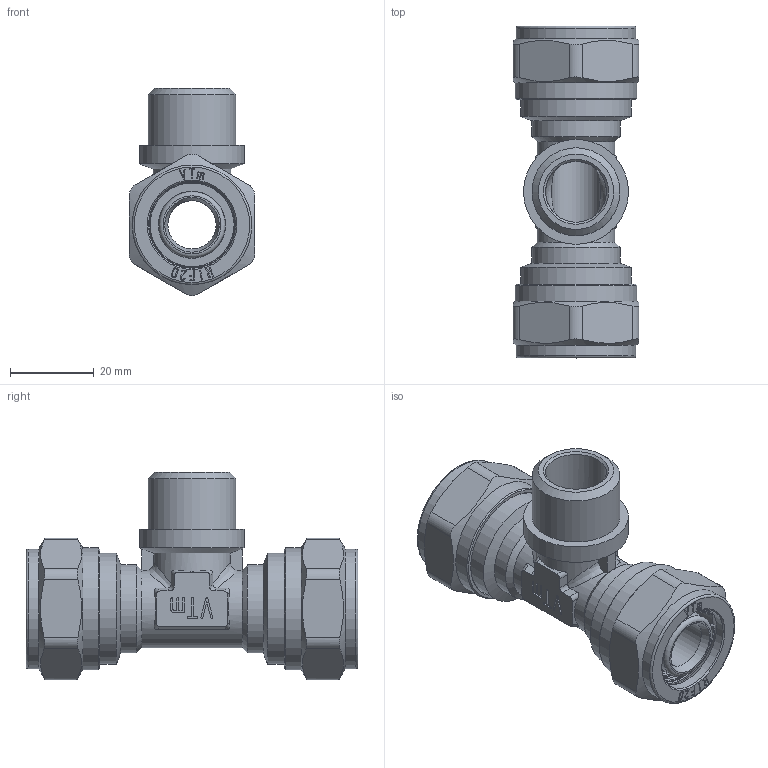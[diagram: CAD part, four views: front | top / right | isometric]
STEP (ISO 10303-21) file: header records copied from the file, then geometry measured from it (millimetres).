
FILE_DESCRIPTION(('STEP AP203'), '1');
FILE_NAME('VTm.333.N.200420', '', ('UNSPECIFIED'), ('UNSPECIFIED'), 'C3D Converter', 'C3D Toolkit', '');
FILE_SCHEMA(('CONFIG_CONTROL_DESIGN'));
Length unit declared in the file: millimetre
Products named in the file (1): ВР.302635.078.000 СБ
Bounding box: 30 x 79.06 x 49.35 mm (x, y, z)
Volume: 30888 mm3; surface area: 21669.1 mm2
Topology: 1 solids, 1 shells, 744 faces, 2045 edges, 1350 vertices
Faces by surface type: extrusion 312, plane 264, cylinder 81, torus 54, cone 27, bspline 4, sphere 2
Full cylindrical faces by diameter (mm): 11.5 x1, 14.5 x1, 15.8 x8, 15.9 x2, 20.1 x2, 20.2 x2, 20.7 x2, 20.955 x1, 21 x2, 24.118 x2, 25 x1, 26.441 x2, 28.5 x2, 29 x2
Entity records: 27537 total; most frequent: CARTESIAN_POINT 10456, ORIENTED_EDGE 3932, DIRECTION 2484, EDGE_CURVE 1966, VERTEX_POINT 1350, VECTOR 1214, B_SPLINE_CURVE_WITH_KNOTS 1108, LINE 902
